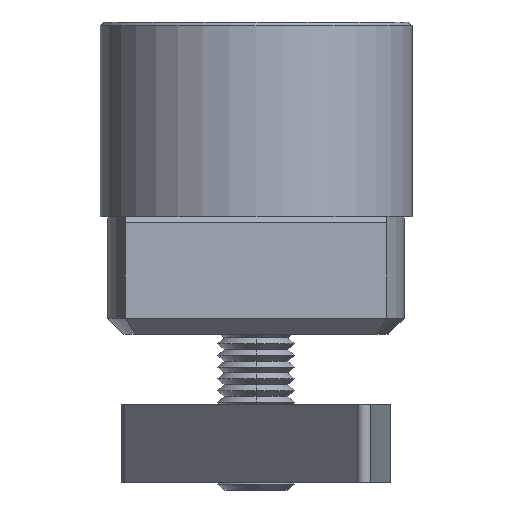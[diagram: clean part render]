
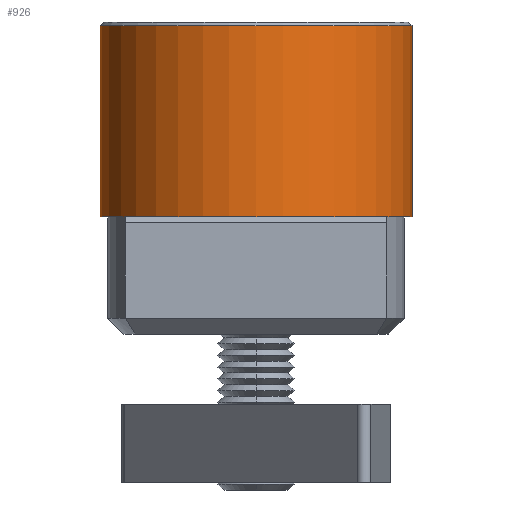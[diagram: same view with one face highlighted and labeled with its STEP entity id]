
A CAD part, front view. The second image highlights one B-rep face of the part: STEP entity #926.
In plain terms, the highlighted cylindrical face has radius 20 mm (diameter 40 mm), a partial arc.
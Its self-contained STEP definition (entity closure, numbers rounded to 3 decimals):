
#815 = VERTEX_POINT ( 'NONE', #2613 ) ;
#867 = VERTEX_POINT ( 'NONE', #2719 ) ;
#926 = ADVANCED_FACE ( 'NONE', ( #2839 ), #2838, .T. ) ;
#927 = EDGE_LOOP ( 'NONE', ( #928, #986, #988, #989 ) ) ;
#928 = ORIENTED_EDGE ( 'NONE', *, *, #945, .F. ) ;
#945 = EDGE_CURVE ( 'NONE', #815, #946, #2872, .T. ) ;
#946 = VERTEX_POINT ( 'NONE', #2868 ) ;
#949 = VERTEX_POINT ( 'NONE', #2862 ) ;
#951 = EDGE_CURVE ( 'NONE', #867, #949, #2861, .T. ) ;
#955 = EDGE_CURVE ( 'NONE', #949, #946, #2852, .T. ) ;
#986 = ORIENTED_EDGE ( 'NONE', *, *, #987, .T. ) ;
#987 = EDGE_CURVE ( 'NONE', #815, #867, #2923, .T. ) ;
#988 = ORIENTED_EDGE ( 'NONE', *, *, #951, .T. ) ;
#989 = ORIENTED_EDGE ( 'NONE', *, *, #955, .T. ) ;
#2613 = CARTESIAN_POINT ( 'NONE',  ( 20., 0., 24.5 ) ) ;
#2719 = CARTESIAN_POINT ( 'NONE',  ( -20., 0., 24.5 ) ) ;
#2834 = DIRECTION ( 'NONE',  ( -1., 0., 0. ) ) ;
#2835 = DIRECTION ( 'NONE',  ( 0., 0., -1. ) ) ;
#2836 = AXIS2_PLACEMENT_3D ( 'NONE', #2837, #2835, #2834 ) ;
#2837 = CARTESIAN_POINT ( 'NONE',  ( 0., 0., 25. ) ) ;
#2838 = CYLINDRICAL_SURFACE ( 'NONE', #2836, 20. ) ;
#2839 = FACE_OUTER_BOUND ( 'NONE', #927, .T. ) ;
#2847 = DIRECTION ( 'NONE',  ( 0., 0., 1. ) ) ;
#2848 = CARTESIAN_POINT ( 'NONE',  ( 0., 0., 0. ) ) ;
#2849 = AXIS2_PLACEMENT_3D ( 'NONE', #2848, #2847, #2910 ) ;
#2852 = CIRCLE ( 'NONE', #2849, 20. ) ;
#2858 = DIRECTION ( 'NONE',  ( 0., 0., -1. ) ) ;
#2859 = VECTOR ( 'NONE', #2858, 1000. ) ;
#2860 = CARTESIAN_POINT ( 'NONE',  ( -20., 0., 25. ) ) ;
#2861 = LINE ( 'NONE', #2860, #2859 ) ;
#2862 = CARTESIAN_POINT ( 'NONE',  ( -20., 0., 0. ) ) ;
#2868 = CARTESIAN_POINT ( 'NONE',  ( 20., 0., 0. ) ) ;
#2869 = DIRECTION ( 'NONE',  ( 0., 0., -1. ) ) ;
#2870 = VECTOR ( 'NONE', #2869, 1000. ) ;
#2871 = CARTESIAN_POINT ( 'NONE',  ( 20., 0., 25. ) ) ;
#2872 = LINE ( 'NONE', #2871, #2870 ) ;
#2910 = DIRECTION ( 'NONE',  ( 1., 0., 0. ) ) ;
#2916 = DIRECTION ( 'NONE',  ( 1., 0., 0. ) ) ;
#2917 = DIRECTION ( 'NONE',  ( 0., 0., -1. ) ) ;
#2918 = CARTESIAN_POINT ( 'NONE',  ( 0., 0., 24.5 ) ) ;
#2919 = AXIS2_PLACEMENT_3D ( 'NONE', #2918, #2917, #2916 ) ;
#2923 = CIRCLE ( 'NONE', #2919, 20. ) ;
